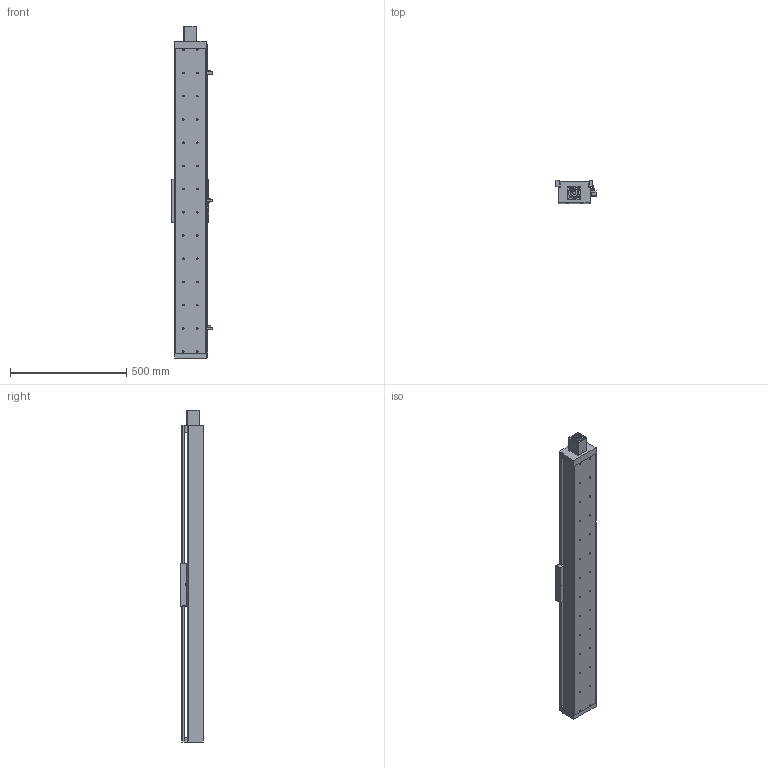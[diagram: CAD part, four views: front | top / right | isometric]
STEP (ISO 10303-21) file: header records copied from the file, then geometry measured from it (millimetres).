
FILE_DESCRIPTION((''),'2;1');
FILE_NAME('E:\libraries\UIA actuator library 2009\standard actuator\UIA136 ball screw 20\UIA136R15NDC stp file 27Apr16\UIA136R15NDC-1100-R20_ _-M60-P13-C10-S.stp','2016-04-27T14:40:16',('h029'),(''),'Autodesk Inventor 11','Autodesk Inventor 11','');
FILE_SCHEMA(('AUTOMOTIVE_DESIGN { 1 0 10303 214 1 1 1 1 }'));
Length unit declared in the file: millimetre
Products named in the file (10): UIA136R15NDC-1100; UIA136R15NDC-body; motor mount F60; SOH-32C; SOH-32C-3; SOH-32C-1; SOH-32C-2; Carriage; Sensor Switch; sensor rail
Assembly tree (9 placements, depth 3):
  UIA136R15NDC-1100
    UIA136R15NDC-body
    motor mount F60
    SOH-32C
      SOH-32C-3
      SOH-32C-1
      SOH-32C-2
    Carriage
    Sensor Switch
    sensor rail
Bounding box: 174.5 x 98 x 1430 mm (x, y, z)
Volume: 5222193.6 mm3; surface area: 1471091.1 mm2
Topology: 8 solids, 8 shells, 531 faces, 1377 edges, 905 vertices
Faces by surface type: plane 313, bspline 174, cylinder 40, cone 4
Full cylindrical faces by diameter (mm): 2.459 x2, 3.242 x2, 4.5 x2, 5.5 x3, 7.5 x2, 10 x2, 12 x1, 14 x1, 32 x3, 37 x1, 41.9 x1, 42.1 x1, 43.5 x1
Entity records: 17451 total; most frequent: CARTESIAN_POINT 5354, ORIENTED_EDGE 2314, DIRECTION 2250, EDGE_CURVE 1157, VERTEX_POINT 840, EDGE_LOOP 837, VECTOR 798, LINE 798
